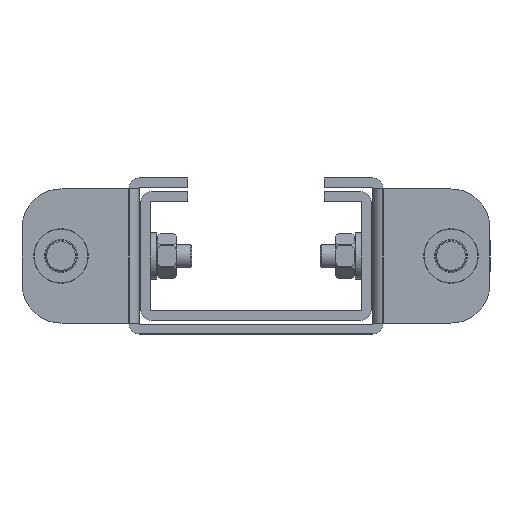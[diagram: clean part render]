
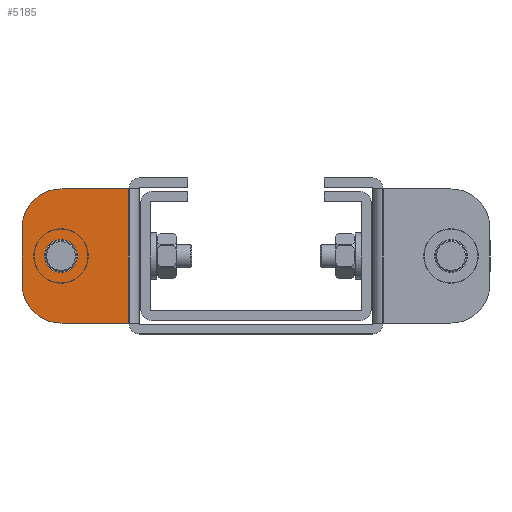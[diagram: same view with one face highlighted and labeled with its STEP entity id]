
A CAD part, left-side view. The second image highlights one B-rep face of the part: STEP entity #5185.
In plain terms, the highlighted planar face has unit normal (-1, 0, 0).
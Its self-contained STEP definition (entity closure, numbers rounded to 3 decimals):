
#357=LINE('',#7650,#810);
#386=LINE('',#7737,#839);
#387=LINE('',#7740,#840);
#388=LINE('',#7742,#841);
#810=VECTOR('',#6116,1000.);
#839=VECTOR('',#6203,1000.);
#840=VECTOR('',#6208,1000.);
#841=VECTOR('',#6209,1000.);
#1346=ORIENTED_EDGE('',*,*,#2848,.T.);
#1347=ORIENTED_EDGE('',*,*,#2798,.T.);
#1348=ORIENTED_EDGE('',*,*,#2803,.T.);
#1349=ORIENTED_EDGE('',*,*,#2805,.T.);
#1350=ORIENTED_EDGE('',*,*,#2849,.T.);
#1351=ORIENTED_EDGE('',*,*,#2850,.F.);
#1352=ORIENTED_EDGE('',*,*,#2847,.T.);
#1353=ORIENTED_EDGE('',*,*,#2801,.T.);
#2798=EDGE_CURVE('',#3561,#3562,#4053,.T.);
#2801=EDGE_CURVE('',#3563,#3564,#4054,.T.);
#2803=EDGE_CURVE('',#3564,#3565,#357,.T.);
#2805=EDGE_CURVE('',#3565,#3566,#4055,.T.);
#2847=EDGE_CURVE('',#3594,#3563,#386,.T.);
#2848=EDGE_CURVE('',#3562,#3561,#4070,.T.);
#2849=EDGE_CURVE('',#3566,#3595,#387,.T.);
#2850=EDGE_CURVE('',#3594,#3595,#388,.T.);
#3561=VERTEX_POINT('',#7637);
#3562=VERTEX_POINT('',#7639);
#3563=VERTEX_POINT('',#7643);
#3564=VERTEX_POINT('',#7645);
#3565=VERTEX_POINT('',#7649);
#3566=VERTEX_POINT('',#7653);
#3594=VERTEX_POINT('',#7734);
#3595=VERTEX_POINT('',#7741);
#4053=CIRCLE('',#5538,4.25);
#4054=CIRCLE('',#5540,10.);
#4055=CIRCLE('',#5543,10.);
#4070=CIRCLE('',#5572,4.25);
#4306=EDGE_LOOP('',(#1346,#1347));
#4307=EDGE_LOOP('',(#1348,#1349,#1350,#1351,#1352,#1353));
#4681=FACE_BOUND('',#4306,.T.);
#4682=FACE_BOUND('',#4307,.T.);
#5044=PLANE('',#5571);
#5185=ADVANCED_FACE('',(#4681,#4682),#5044,.T.);
#5538=AXIS2_PLACEMENT_3D('',#7640,#6105,#6106);
#5540=AXIS2_PLACEMENT_3D('',#7646,#6111,#6112);
#5543=AXIS2_PLACEMENT_3D('',#7654,#6120,#6121);
#5571=AXIS2_PLACEMENT_3D('',#7738,#6204,#6205);
#5572=AXIS2_PLACEMENT_3D('',#7739,#6206,#6207);
#6105=DIRECTION('',(1.,0.,0.));
#6106=DIRECTION('',(0.,0.,1.));
#6111=DIRECTION('',(-1.,0.,0.));
#6112=DIRECTION('',(0.,0.,1.));
#6116=DIRECTION('',(0.,0.,-1.));
#6120=DIRECTION('',(-1.,0.,0.));
#6121=DIRECTION('',(0.,0.,1.));
#6203=DIRECTION('',(0.,1.,0.));
#6204=DIRECTION('',(-1.,0.,0.));
#6205=DIRECTION('',(0.,0.,1.));
#6206=DIRECTION('',(1.,0.,0.));
#6207=DIRECTION('',(0.,0.,1.));
#6208=DIRECTION('',(0.,-1.,0.));
#6209=DIRECTION('',(0.,0.,-1.));
#7637=CARTESIAN_POINT('',(-2.8,50.,13.25));
#7639=CARTESIAN_POINT('',(-2.8,50.,21.75));
#7640=CARTESIAN_POINT('',(-2.8,50.,17.5));
#7643=CARTESIAN_POINT('',(-2.8,50.,34.7));
#7645=CARTESIAN_POINT('',(-2.8,60.,24.7));
#7646=CARTESIAN_POINT('',(-2.8,50.,24.7));
#7649=CARTESIAN_POINT('',(-2.8,60.,10.3));
#7650=CARTESIAN_POINT('',(-2.8,60.,0.3));
#7653=CARTESIAN_POINT('',(-2.8,50.,0.3));
#7654=CARTESIAN_POINT('',(-2.8,50.,10.3));
#7734=CARTESIAN_POINT('',(-2.8,32.6,34.7));
#7737=CARTESIAN_POINT('',(-2.8,60.,34.7));
#7738=CARTESIAN_POINT('',(-2.8,60.,0.3));
#7739=CARTESIAN_POINT('',(-2.8,50.,17.5));
#7740=CARTESIAN_POINT('',(-2.8,60.,0.3));
#7741=CARTESIAN_POINT('',(-2.8,32.6,0.3));
#7742=CARTESIAN_POINT('',(-2.8,32.6,0.3));
